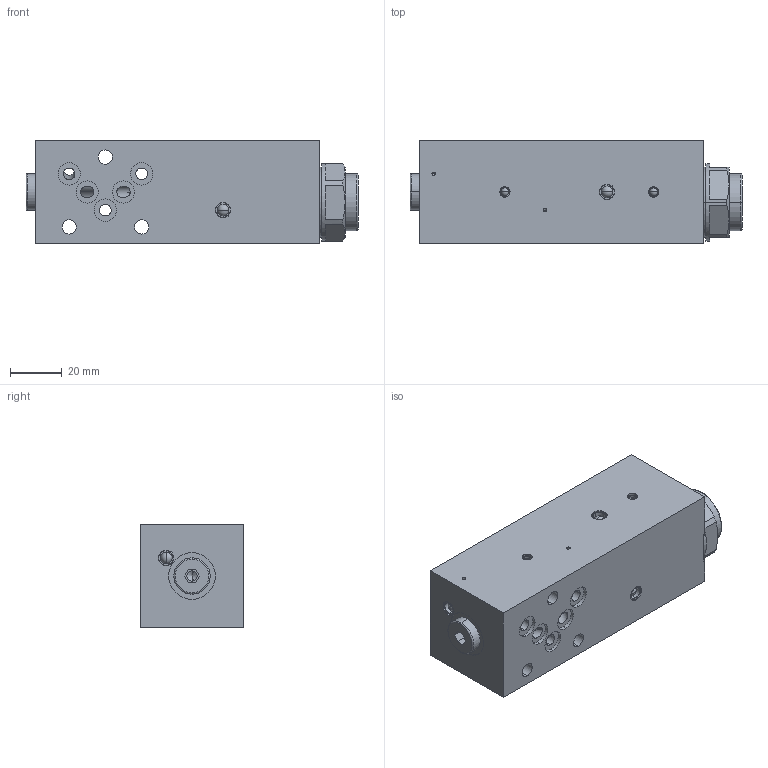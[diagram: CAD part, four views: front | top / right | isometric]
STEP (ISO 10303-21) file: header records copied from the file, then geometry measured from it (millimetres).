
FILE_DESCRIPTION (( 'STEP AP214' ), '1' );
FILE_NAME ('UDFSA04.STEP', '2017-04-13T12:27:30', ( '' ), ( '' ), 'SwSTEP 2.0', 'SolidWorks 2016', '' );
FILE_SCHEMA (( 'AUTOMOTIVE_DESIGN' ));
Length unit declared in the file: millimetre
Products named in the file (1): UDFSA04
Bounding box: 128.4 x 40 x 40 mm (x, y, z)
Volume: 177714.3 mm3; surface area: 28819.5 mm2
Topology: 6 solids, 12 shells, 270 faces, 621 edges, 372 vertices
Faces by surface type: cylinder 108, cone 79, plane 55, sphere 24, torus 4
Entity records: 10774 total; most frequent: CARTESIAN_POINT 1638, DIRECTION 1384, ORIENTED_EDGE 1178, EDGE_CURVE 589, AXIS2_PLACEMENT_3D 568, VERTEX_POINT 372, EDGE_LOOP 315, CIRCLE 297
